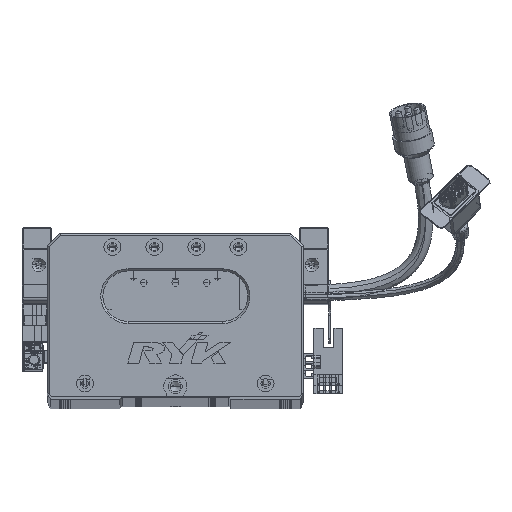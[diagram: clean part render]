
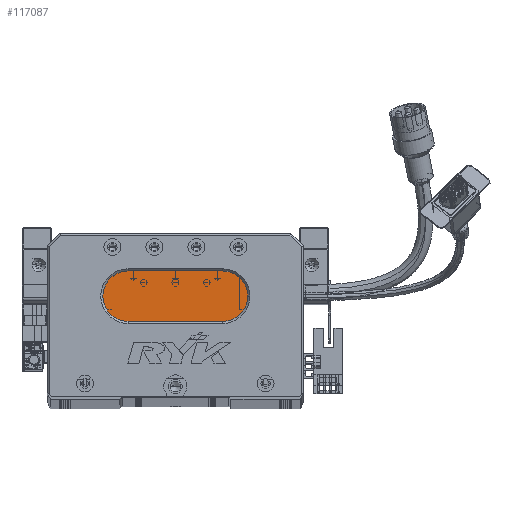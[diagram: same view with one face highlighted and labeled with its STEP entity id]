
A CAD part, top view. The second image highlights one B-rep face of the part: STEP entity #117087.
In plain terms, the highlighted planar face has unit normal (0, 0, 1) as drawn and (0, 0, -1) by its records, which use the part's own axes.
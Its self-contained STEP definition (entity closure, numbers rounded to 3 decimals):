
#2643 = VERTEX_POINT ( 'NONE', #78366 ) ;
#3038 = CARTESIAN_POINT ( 'NONE',  ( 38.5, 48., 13. ) ) ;
#4020 = CARTESIAN_POINT ( 'NONE',  ( 83.5, 60., 13. ) ) ;
#6016 = VERTEX_POINT ( 'NONE', #53427 ) ;
#8128 = PLANE ( 'NONE',  #21761 ) ;
#10202 = EDGE_CURVE ( 'NONE', #6016, #28313, #15390, .T. ) ;
#14134 = EDGE_CURVE ( 'NONE', #2643, #6016, #101407, .T. ) ;
#15011 = LINE ( 'NONE', #78461, #119602 ) ;
#15390 = CIRCLE ( 'NONE', #76129, 12. ) ;
#17791 = ORIENTED_EDGE ( 'NONE', *, *, #14134, .T. ) ;
#18272 = CIRCLE ( 'NONE', #95641, 12. ) ;
#21761 = AXIS2_PLACEMENT_3D ( 'NONE', #103112, #73909, #64873 ) ;
#28313 = VERTEX_POINT ( 'NONE', #55826 ) ;
#28913 = DIRECTION ( 'NONE',  ( 0., 0., -1. ) ) ;
#38754 = DIRECTION ( 'NONE',  ( -1., 0., 0. ) ) ;
#40660 = CIRCLE ( 'NONE', #96478, 12. ) ;
#40920 = ORIENTED_EDGE ( 'NONE', *, *, #94646, .T. ) ;
#42536 = FACE_OUTER_BOUND ( 'NONE', #79876, .T. ) ;
#53427 = CARTESIAN_POINT ( 'NONE',  ( 83.5, 60., 13. ) ) ;
#54202 = CARTESIAN_POINT ( 'NONE',  ( 83.5, 48., 13. ) ) ;
#55826 = CARTESIAN_POINT ( 'NONE',  ( 83.5, 36., 13. ) ) ;
#56242 = VERTEX_POINT ( 'NONE', #121687 ) ;
#57748 = DIRECTION ( 'NONE',  ( 0., 0., -1. ) ) ;
#59907 = DIRECTION ( 'NONE',  ( -1., 0., 0. ) ) ;
#63740 = DIRECTION ( 'NONE',  ( -1., 0., 0. ) ) ;
#64557 = VERTEX_POINT ( 'NONE', #114070 ) ;
#64873 = DIRECTION ( 'NONE',  ( -1., 0., 0. ) ) ;
#73909 = DIRECTION ( 'NONE',  ( 0., 0., -1. ) ) ;
#75792 = CARTESIAN_POINT ( 'NONE',  ( 38.5, 48., 13. ) ) ;
#76129 = AXIS2_PLACEMENT_3D ( 'NONE', #54202, #120089, #63740 ) ;
#76704 = DIRECTION ( 'NONE',  ( -1., 0., 0. ) ) ;
#78366 = CARTESIAN_POINT ( 'NONE',  ( 38.5, 60., 13. ) ) ;
#78461 = CARTESIAN_POINT ( 'NONE',  ( 83.5, 36., 13. ) ) ;
#79876 = EDGE_LOOP ( 'NONE', ( #104859, #92769, #83672, #40920, #17791 ) ) ;
#82296 = VECTOR ( 'NONE', #117207, 1000. ) ;
#83672 = ORIENTED_EDGE ( 'NONE', *, *, #114246, .T. ) ;
#88086 = EDGE_CURVE ( 'NONE', #28313, #64557, #15011, .T. ) ;
#92769 = ORIENTED_EDGE ( 'NONE', *, *, #88086, .T. ) ;
#94646 = EDGE_CURVE ( 'NONE', #56242, #2643, #40660, .T. ) ;
#95641 = AXIS2_PLACEMENT_3D ( 'NONE', #3038, #57748, #76704 ) ;
#96478 = AXIS2_PLACEMENT_3D ( 'NONE', #75792, #28913, #38754 ) ;
#101407 = LINE ( 'NONE', #4020, #82296 ) ;
#103112 = CARTESIAN_POINT ( 'NONE',  ( 83.5, 48., 13. ) ) ;
#104859 = ORIENTED_EDGE ( 'NONE', *, *, #10202, .T. ) ;
#114070 = CARTESIAN_POINT ( 'NONE',  ( 38.5, 36., 13. ) ) ;
#114246 = EDGE_CURVE ( 'NONE', #64557, #56242, #18272, .T. ) ;
#117087 = ADVANCED_FACE ( 'NONE', ( #42536 ), #8128, .T. ) ;
#117207 = DIRECTION ( 'NONE',  ( 1., 0., 0. ) ) ;
#119602 = VECTOR ( 'NONE', #59907, 1000. ) ;
#120089 = DIRECTION ( 'NONE',  ( 0., 0., -1. ) ) ;
#121687 = CARTESIAN_POINT ( 'NONE',  ( 26.5, 48., 13. ) ) ;
